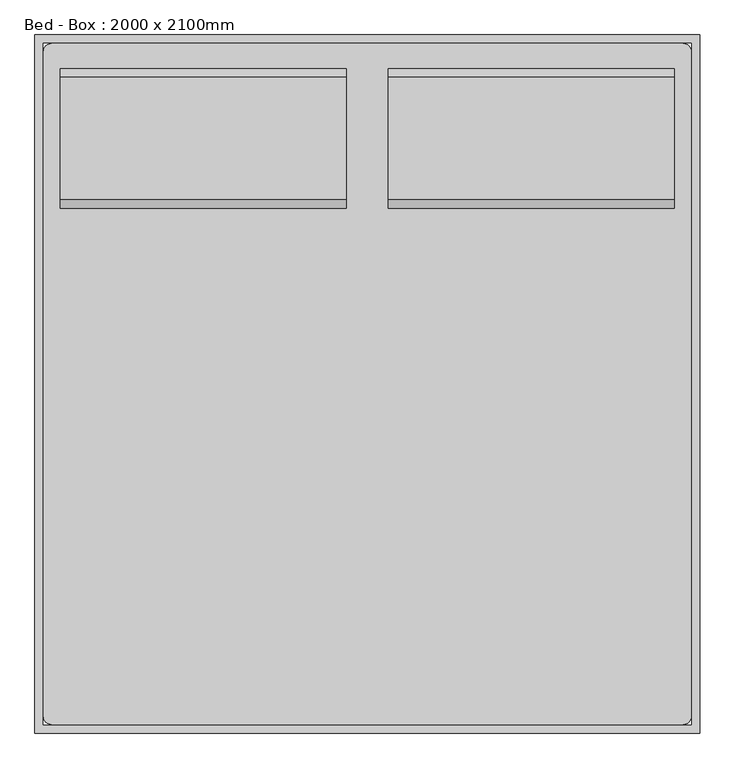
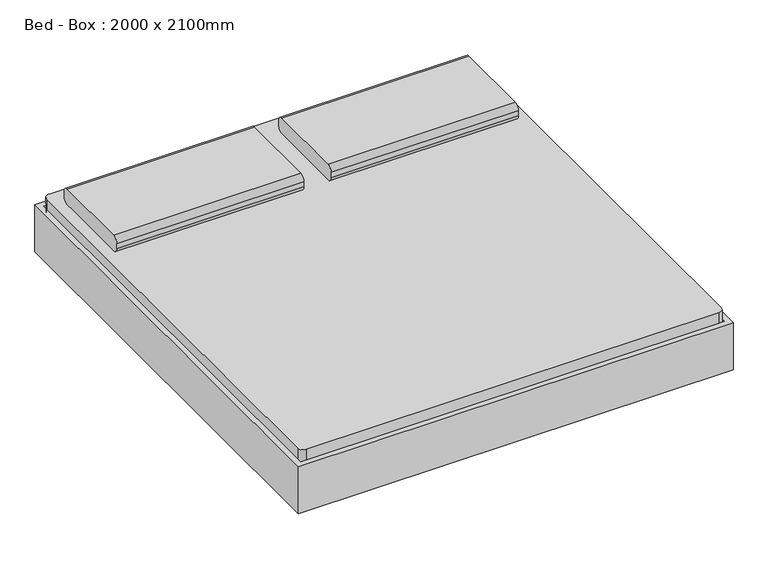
"""IFC4 building model written with IfcOpenShell, lengths in millimetres: furniture geometry, Bed - Box : 2000 x 2100mm."""

from ifc_helpers import new_model, si_unit, point, frame, frame_2d, origin, place, context, project, spatial, polyline, circle_curve, trimmed, segment, composite_curve, outline, extrude, source, transform, mapped, element, save
from ifc_brep_helpers import plane_surface, cylinder_surface, revolved_surface, advanced_brep


def bed_box_2000_x_2100mm_5f007bae(model_context):
    return source(origin(), model_context, "Body", "SolidModel", [
        extrude(outline(composite_curve([segment(polyline([(688.5704918, 406.4), (320.2704918, 406.4)]), True, "CONTINUOUS"), segment(trimmed(circle_curve(frame_2d((320.2704918, 431.8)), 25.4), [point((320.2704918, 406.4))], [point((294.8704918, 431.8))], False, "CARTESIAN"), True, "CONTINUOUS"), segment(polyline([(294.8704918, 431.8), (294.8704918, 457.2)]), True, "CONTINUOUS"), segment(trimmed(circle_curve(frame_2d((320.2704918, 457.2)), 25.4), [point((294.8704918, 457.2))], [point((320.2704918, 482.6))], False, "CARTESIAN"), True, "CONTINUOUS"), segment(polyline([(320.2704918, 482.6), (688.5704918, 482.6)]), True, "CONTINUOUS"), segment(trimmed(circle_curve(frame_2d((688.5704918, 457.2)), 25.4), [point((688.5704918, 482.6))], [point((713.9704918, 457.2))], False, "CARTESIAN"), True, "CONTINUOUS"), segment(polyline([(713.9704918, 457.2), (713.9704918, 431.8)]), True, "CONTINUOUS"), segment(trimmed(circle_curve(frame_2d((688.5704918, 431.8)), 25.4), [point((713.9704918, 431.8))], [point((688.5704918, 406.4))], False, "CARTESIAN"), True, "CONTINUOUS")], self_intersect=False)), frame((402.652459, 0.0, 0.0), z_axis=(1.0, 0.0, 0.0), x_axis=(0.0, 1.0, 0.0)), (0.0, 0.0, 1.0), 860.3),
        extrude(outline(composite_curve([segment(polyline([(688.5704918, 406.4), (320.2704918, 406.4)]), True, "CONTINUOUS"), segment(trimmed(circle_curve(frame_2d((320.2704918, 431.8)), 25.4), [point((320.2704918, 406.4))], [point((294.8704918, 431.8))], False, "CARTESIAN"), True, "CONTINUOUS"), segment(polyline([(294.8704918, 431.8), (294.8704918, 457.2)]), True, "CONTINUOUS"), segment(trimmed(circle_curve(frame_2d((320.2704918, 457.2)), 25.4), [point((294.8704918, 457.2))], [point((320.2704918, 482.6))], False, "CARTESIAN"), True, "CONTINUOUS"), segment(polyline([(320.2704918, 482.6), (688.5704918, 482.6)]), True, "CONTINUOUS"), segment(trimmed(circle_curve(frame_2d((688.5704918, 457.2)), 25.4), [point((688.5704918, 482.6))], [point((713.9704918, 457.2))], False, "CARTESIAN"), True, "CONTINUOUS"), segment(polyline([(713.9704918, 457.2), (713.9704918, 431.8)]), True, "CONTINUOUS"), segment(trimmed(circle_curve(frame_2d((688.5704918, 431.8)), 25.4), [point((713.9704918, 431.8))], [point((688.5704918, 406.4))], False, "CARTESIAN"), True, "CONTINUOUS")], self_intersect=False)), frame((-584.647541, 0.0, 0.0), z_axis=(1.0, 0.0, 0.0), x_axis=(0.0, 1.0, 0.0)), (0.0, 0.0, 1.0), 860.3),
        advanced_brep(
        [(-635.1231784, 561.5704918, 177.8), (-635.1231784, 485.3704918, 177.8), (-635.1231784, 485.3704918, 196.85), (-635.1231784, 561.5704918, 196.85), (-584.3231784, 561.5704918, 177.8), (-584.3231784, 485.3704918, 177.8), (-572.1869899, 485.3704918, 196.85), (-572.1869899, 561.5704918, 196.85), (-508.2523099, 561.5704918, 14.6654962), (-508.2523099, 485.3704918, 14.6654962), (-490.9871466, 485.3704918, 22.716374), (-490.9871466, 561.5704918, 22.716374), (-485.2320921, 485.3704918, 0.0), (-485.2320921, 561.5704918, 0.0), (-485.2320921, 485.3704918, 19.05), (-485.2320921, 561.5704918, 19.05), (-406.6195862, 561.5704918, 0.0), (-406.6195862, 485.3704918, 0.0), (-406.6195862, 485.3704918, 19.05), (-406.6195862, 561.5704918, 19.05), (-393.9195862, 485.3704918, 3.4029547), (-393.9195862, 561.5704918, 3.4029547), (-403.4445862, 485.3704918, 19.9007387), (-403.4445862, 561.5704918, 19.9007387), (-333.822541, 561.5704918, 38.1), (-333.822541, 485.3704918, 38.1), (-338.9269731, 485.3704918, 57.15), (-338.9269731, 561.5704918, 57.15), (1012.4518216, 561.5704918, 38.1), (1012.4518216, 485.3704918, 38.1), (1017.5562537, 485.3704918, 57.15), (1017.5562537, 561.5704918, 57.15), (1072.5488669, 561.5704918, 3.4029547), (1072.5488669, 485.3704918, 3.4029547), (1082.0738669, 485.3704918, 19.9007387), (1082.0738669, 561.5704918, 19.9007387), (1085.2488669, 485.3704918, 0.0), (1085.2488669, 561.5704918, 0.0), (1085.2488669, 485.3704918, 19.05), (1085.2488669, 561.5704918, 19.05), (1163.8613728, 561.5704918, 0.0), (1163.8613728, 485.3704918, 0.0), (1163.8613728, 485.3704918, 19.05), (1163.8613728, 561.5704918, 19.05), (1186.8815906, 485.3704918, 14.6654962), (1186.8815906, 561.5704918, 14.6654962), (1169.6164272, 485.3704918, 22.716374), (1169.6164272, 561.5704918, 22.716374), (1262.952459, 561.5704918, 177.8), (1262.952459, 485.3704918, 177.8), (1250.8162705, 485.3704918, 196.85), (1250.8162705, 561.5704918, 196.85), (1313.752459, 561.5704918, 177.8), (1313.752459, 561.5704918, 196.85), (1313.752459, 485.3704918, 196.85), (1313.752459, 485.3704918, 177.8)],
        [
            (0, 1),
            (1, 2),
            (2, 3),
            (3, 0),
            (0, 4),
            (4, 5),
            (5, 1),
            (5, 6),
            (6, 2),
            (6, 7),
            (7, 3),
            (7, 4),
            (4, 8),
            (8, 9),
            (9, 5),
            (9, 10),
            (10, 6),
            (10, 11),
            (11, 7),
            (11, 8),
            (12, 9, circle_curve(frame((-485.2320921, 485.3704918, 25.4), z_axis=(0.0, 1.0, 0.0), x_axis=(-0.9063077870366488, 0.0, -0.4226182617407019)), 25.4)),
            (8, 13, circle_curve(frame((-485.2320921, 561.5704918, 25.4), z_axis=(0.0, -1.0, 0.0), x_axis=(-0.9063077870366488, 0.0, -0.4226182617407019)), 25.4)),
            (13, 12),
            (14, 10, circle_curve(frame((-485.2320921, 485.3704918, 25.4), z_axis=(0.0, 1.0, 0.0), x_axis=(-0.9063077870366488, 0.0, -0.4226182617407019)), 6.35)),
            (12, 14),
            (15, 11, circle_curve(frame((-485.2320921, 561.5704918, 25.4), z_axis=(0.0, 1.0, 0.0), x_axis=(-0.9063077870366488, 0.0, -0.4226182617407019)), 6.35)),
            (14, 15),
            (15, 13),
            (13, 16),
            (16, 17),
            (17, 12),
            (17, 18),
            (18, 14),
            (18, 19),
            (19, 15),
            (19, 16),
            (20, 17, circle_curve(frame((-406.6195862, 485.3704918, 25.4), z_axis=(0.0, 1.0, 0.0), x_axis=(0.0, 0.0, -1.0)), 25.4)),
            (16, 21, circle_curve(frame((-406.6195862, 561.5704918, 25.4), z_axis=(0.0, -1.0, 0.0), x_axis=(0.0, 0.0, -1.0)), 25.4)),
            (21, 20),
            (22, 18, circle_curve(frame((-406.6195862, 485.3704918, 25.4), z_axis=(0.0, 1.0, 0.0), x_axis=(0.0, 0.0, -1.0)), 6.35)),
            (20, 22),
            (23, 19, circle_curve(frame((-406.6195862, 561.5704918, 25.4), z_axis=(0.0, 1.0, 0.0), x_axis=(0.0, 0.0, -1.0)), 6.35)),
            (22, 23),
            (23, 21),
            (21, 24),
            (24, 25),
            (25, 20),
            (25, 26),
            (26, 22),
            (26, 27),
            (27, 23),
            (27, 24),
            (24, 28),
            (28, 29),
            (29, 25),
            (29, 30),
            (30, 26),
            (30, 31),
            (31, 27),
            (31, 28),
            (28, 32),
            (32, 33),
            (33, 29),
            (33, 34),
            (34, 30),
            (34, 35),
            (35, 31),
            (35, 32),
            (36, 33, circle_curve(frame((1085.2488669, 485.3704918, 25.4), z_axis=(0.0, 1.0, 0.0), x_axis=(-0.5000000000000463, 0.0, -0.8660254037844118)), 25.4)),
            (32, 37, circle_curve(frame((1085.2488669, 561.5704918, 25.4), z_axis=(0.0, -1.0, 0.0), x_axis=(-0.5000000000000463, 0.0, -0.8660254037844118)), 25.4)),
            (37, 36),
            (38, 34, circle_curve(frame((1085.2488669, 485.3704918, 25.4), z_axis=(0.0, 1.0, 0.0), x_axis=(-0.5000000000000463, 0.0, -0.8660254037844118)), 6.35)),
            (36, 38),
            (39, 35, circle_curve(frame((1085.2488669, 561.5704918, 25.4), z_axis=(0.0, 1.0, 0.0), x_axis=(-0.5000000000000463, 0.0, -0.8660254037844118)), 6.35)),
            (38, 39),
            (39, 37),
            (37, 40),
            (40, 41),
            (41, 36),
            (41, 42),
            (42, 38),
            (42, 43),
            (43, 39),
            (43, 40),
            (44, 41, circle_curve(frame((1163.8613728, 485.3704918, 25.4), z_axis=(0.0, 1.0, 0.0), x_axis=(0.0, 0.0, -1.0)), 25.4)),
            (40, 45, circle_curve(frame((1163.8613728, 561.5704918, 25.4), z_axis=(0.0, -1.0, 0.0), x_axis=(0.0, 0.0, -1.0)), 25.4)),
            (45, 44),
            (46, 42, circle_curve(frame((1163.8613728, 485.3704918, 25.4), z_axis=(0.0, 1.0, 0.0), x_axis=(0.0, 0.0, -1.0)), 6.35)),
            (44, 46),
            (47, 43, circle_curve(frame((1163.8613728, 561.5704918, 25.4), z_axis=(0.0, 1.0, 0.0), x_axis=(0.0, 0.0, -1.0)), 6.35)),
            (46, 47),
            (47, 45),
            (45, 48),
            (48, 49),
            (49, 44),
            (49, 50),
            (50, 46),
            (50, 51),
            (51, 47),
            (51, 48),
            (52, 53),
            (53, 54),
            (54, 55),
            (55, 52),
            (48, 52),
            (55, 49),
            (54, 50),
            (53, 51),
        ],
        [
            plane_surface(frame((-635.1231784, 815.5704918, -152.9490627), z_axis=(-1.0, 0.0, 0.0), x_axis=(0.0, 1.0, 0.0))),
            plane_surface(frame((-635.1231784, 561.5704918, 177.8), z_axis=(0.0, 0.0, -1.0), x_axis=(1.0, 0.0, 0.0))),
            plane_surface(frame((-635.1231784, 485.3704918, 177.8), z_axis=(0.0, -1.0, 0.0), x_axis=(1.0, 0.0, 0.0))),
            plane_surface(frame((-635.1231784, 485.3704918, 196.85), z_axis=(0.0, 0.0, 1.0), x_axis=(1.0, 0.0, 0.0))),
            plane_surface(frame((-635.1231784, 561.5704918, 196.85), z_axis=(0.0, 1.0, 0.0), x_axis=(1.0, 0.0, 0.0))),
            plane_surface(frame((-584.3231784, 561.5704918, 177.8), z_axis=(-0.906307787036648, 0.0, -0.4226182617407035), x_axis=(0.4226182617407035, 0.0, -0.906307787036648))),
            plane_surface(frame((-584.3231784, 485.3704918, 177.8), z_axis=(0.0, -1.0000000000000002, 0.0), x_axis=(0.4226182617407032, 0.0, -0.9063077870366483))),
            plane_surface(frame((-572.1869899, 485.3704918, 196.85), z_axis=(0.9063077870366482, 0.0, 0.4226182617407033), x_axis=(0.4226182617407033, 0.0, -0.9063077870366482))),
            plane_surface(frame((-572.1869899, 561.5704918, 196.85), z_axis=(0.0, 1.0, 0.0), x_axis=(0.422618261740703, 0.0, -0.9063077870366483))),
            cylinder_surface(frame((-485.2320921, 815.5704918, 25.4), z_axis=(0.0, -1.0, 0.0), x_axis=(-0.9063077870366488, 0.0, -0.4226182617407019)), 25.4),
            plane_surface(frame((-485.2320921, 485.3704918, 25.4), z_axis=(0.0, -1.0, 0.0), x_axis=(-0.9063077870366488, 0.0, -0.4226182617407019))),
            revolved_surface(polyline([(-490.9871465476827, 485.3704918, 22.716374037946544), (-490.9871465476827, 561.5704918, 22.716374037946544)]), (-485.2320921, 815.5704918, 25.4), (0.0, -1.0, 0.0)),
            plane_surface(frame((-485.2320921, 561.5704918, 25.4), z_axis=(0.0, 1.0, 0.0), x_axis=(-0.9063077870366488, 0.0, -0.4226182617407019))),
            plane_surface(frame((-485.2320921, 561.5704918, 0.0), z_axis=(0.0, 0.0, -1.0), x_axis=(1.0, 0.0, 0.0))),
            plane_surface(frame((-485.2320921, 485.3704918, 0.0), z_axis=(0.0, -1.0, 0.0), x_axis=(1.0, 0.0, 0.0))),
            plane_surface(frame((-485.2320921, 485.3704918, 19.05), z_axis=(0.0, 0.0, 1.0), x_axis=(1.0, 0.0, 0.0))),
            plane_surface(frame((-485.2320921, 561.5704918, 19.05), z_axis=(0.0, 1.0, 0.0), x_axis=(1.0, 0.0, 0.0))),
            cylinder_surface(frame((-406.6195862, 815.5704918, 25.4), z_axis=(0.0, -1.0, 0.0), x_axis=(0.0, 0.0, -1.0)), 25.4),
            plane_surface(frame((-406.6195862, 485.3704918, 25.4), z_axis=(0.0, -1.0, 0.0), x_axis=(0.0, 0.0, -1.0))),
            revolved_surface(polyline([(-406.6195862, 485.3704918, 19.049999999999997), (-406.6195862, 561.5704918, 19.049999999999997)]), (-406.6195862, 815.5704918, 25.4), (0.0, -1.0, 0.0)),
            plane_surface(frame((-406.6195862, 561.5704918, 25.4), z_axis=(0.0, 1.0, 0.0), x_axis=(0.0, 0.0, -1.0))),
            plane_surface(frame((-393.9195862, 561.5704918, 3.4029547), z_axis=(0.4999999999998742, 0.0, -0.8660254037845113), x_axis=(0.8660254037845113, 0.0, 0.4999999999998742))),
            plane_surface(frame((-393.9195862, 485.3704918, 3.4029547), z_axis=(0.0, -1.0, 0.0), x_axis=(0.8660254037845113, 0.0, 0.49999999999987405))),
            plane_surface(frame((-403.4445862, 485.3704918, 19.9007387), z_axis=(-0.49999999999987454, 0.0, 0.8660254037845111), x_axis=(0.8660254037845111, 0.0, 0.49999999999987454))),
            plane_surface(frame((-403.4445862, 561.5704918, 19.9007387), z_axis=(0.0, 1.0, 0.0), x_axis=(0.8660254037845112, 0.0, 0.4999999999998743))),
            plane_surface(frame((-333.822541, 561.5704918, 38.1), z_axis=(0.0, 0.0, -1.0), x_axis=(1.0, 0.0, 0.0))),
            plane_surface(frame((-333.822541, 485.3704918, 38.1), z_axis=(0.0, -1.0, 0.0), x_axis=(1.0, 0.0, 0.0))),
            plane_surface(frame((-338.9269731, 485.3704918, 57.15), z_axis=(0.0, 0.0, 1.0), x_axis=(1.0, 0.0, 0.0))),
            plane_surface(frame((-338.9269731, 561.5704918, 57.15), z_axis=(0.0, 1.0, 0.0), x_axis=(1.0, 0.0, 0.0))),
            plane_surface(frame((1012.4518216, 561.5704918, 38.1), z_axis=(-0.5000000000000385, 0.0, -0.8660254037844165), x_axis=(0.8660254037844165, 0.0, -0.5000000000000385))),
            plane_surface(frame((1012.4518216, 485.3704918, 38.1), z_axis=(0.0, -1.0, 0.0), x_axis=(0.8660254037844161, 0.0, -0.5000000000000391))),
            plane_surface(frame((1017.5562537, 485.3704918, 57.15), z_axis=(0.5000000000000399, 0.0, 0.8660254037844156), x_axis=(0.8660254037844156, 0.0, -0.5000000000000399))),
            plane_surface(frame((1017.5562537, 561.5704918, 57.15), z_axis=(0.0, 1.0, 0.0), x_axis=(0.8660254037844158, 0.0, -0.5000000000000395))),
            cylinder_surface(frame((1085.2488669, 815.5704918, 25.4), z_axis=(0.0, -1.0, 0.0), x_axis=(-0.5000000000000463, 0.0, -0.8660254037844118)), 25.4),
            plane_surface(frame((1085.2488669, 485.3704918, 25.4), z_axis=(0.0, -1.0000000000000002, 0.0), x_axis=(-0.5000000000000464, 0.0, -0.866025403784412))),
            revolved_surface(polyline([(1082.0738668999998, 485.3704918, 19.90073868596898), (1082.0738668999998, 561.5704918, 19.90073868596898)]), (1085.2488669, 815.5704918, 25.4), (0.0, -1.0, 0.0)),
            plane_surface(frame((1085.2488669, 561.5704918, 25.4), z_axis=(0.0, 1.0000000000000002, 0.0), x_axis=(-0.5000000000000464, 0.0, -0.866025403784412))),
            plane_surface(frame((1085.2488669, 561.5704918, 0.0), z_axis=(0.0, 0.0, -1.0), x_axis=(1.0, 0.0, 0.0))),
            plane_surface(frame((1085.2488669, 485.3704918, 0.0), z_axis=(0.0, -1.0, 0.0), x_axis=(1.0, 0.0, 0.0))),
            plane_surface(frame((1085.2488669, 485.3704918, 19.05), z_axis=(0.0, 0.0, 1.0), x_axis=(1.0, 0.0, 0.0))),
            plane_surface(frame((1085.2488669, 561.5704918, 19.05), z_axis=(0.0, 1.0, 0.0), x_axis=(1.0, 0.0, 0.0))),
            cylinder_surface(frame((1163.8613728, 815.5704918, 25.4), z_axis=(0.0, -1.0, 0.0), x_axis=(0.0, 0.0, -1.0)), 25.4),
            plane_surface(frame((1163.8613728, 485.3704918, 25.4), z_axis=(0.0, -1.0, 0.0), x_axis=(0.0, 0.0, -1.0))),
            revolved_surface(polyline([(1163.8613728, 485.3704918, 19.049999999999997), (1163.8613728, 561.5704918, 19.049999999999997)]), (1163.8613728, 815.5704918, 25.4), (0.0, -1.0, 0.0)),
            plane_surface(frame((1163.8613728, 561.5704918, 25.4), z_axis=(0.0, 1.0, 0.0), x_axis=(0.0, 0.0, -1.0))),
            plane_surface(frame((1186.8815906, 561.5704918, 14.6654962), z_axis=(0.9063077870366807, 0.0, -0.42261826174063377), x_axis=(0.42261826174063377, 0.0, 0.9063077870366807))),
            plane_surface(frame((1186.8815906, 485.3704918, 14.6654962), z_axis=(0.0, -1.0, 0.0), x_axis=(0.4226182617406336, 0.0, 0.9063077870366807))),
            plane_surface(frame((1169.6164272, 485.3704918, 22.716374), z_axis=(-0.9063077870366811, 0.0, 0.4226182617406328), x_axis=(0.4226182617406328, 0.0, 0.9063077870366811))),
            plane_surface(frame((1169.6164272, 561.5704918, 22.716374), z_axis=(0.0, 1.0, 0.0), x_axis=(0.42261826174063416, 0.0, 0.9063077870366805))),
            plane_surface(frame((1313.752459, 815.5704918, -152.9490627), z_axis=(1.0, 0.0, 0.0), x_axis=(0.0, 1.0, 0.0))),
            plane_surface(frame((1262.952459, 561.5704918, 177.8), z_axis=(0.0, 0.0, -1.0), x_axis=(1.0, 0.0, 0.0))),
            plane_surface(frame((1262.952459, 485.3704918, 177.8), z_axis=(0.0, -1.0, 0.0), x_axis=(1.0, 0.0, 0.0))),
            plane_surface(frame((1250.8162705, 485.3704918, 196.85), z_axis=(0.0, 0.0, 1.0), x_axis=(1.0, 0.0, 0.0))),
            plane_surface(frame((1250.8162705, 561.5704918, 196.85), z_axis=(0.0, 1.0, 0.0), x_axis=(1.0, 0.0, 0.0))),
        ],
        [
            (0, [[1, 2, 3, 4]]),
            (1, [[-1, 5, 6, 7]]),
            (2, [[-2, -7, 8, 9]]),
            (3, [[-3, -9, 10, 11]]),
            (4, [[-4, -11, 12, -5]]),
            (5, [[-6, 13, 14, 15]]),
            (6, [[-8, -15, 16, 17]]),
            (7, [[-10, -17, 18, 19]]),
            (8, [[-12, -19, 20, -13]]),
            (9, [[21, -14, 22, 23]]),
            (10, [[24, -16, -21, 25]]),
            (11, [[26, -18, -24, 27]]),
            (12, [[-22, -20, -26, 28]]),
            (13, [[-23, 29, 30, 31]]),
            (14, [[-25, -31, 32, 33]]),
            (15, [[-27, -33, 34, 35]]),
            (16, [[-28, -35, 36, -29]]),
            (17, [[37, -30, 38, 39]]),
            (18, [[40, -32, -37, 41]]),
            (19, [[42, -34, -40, 43]]),
            (20, [[-38, -36, -42, 44]]),
            (21, [[-39, 45, 46, 47]]),
            (22, [[-41, -47, 48, 49]]),
            (23, [[-43, -49, 50, 51]]),
            (24, [[-44, -51, 52, -45]]),
            (25, [[-46, 53, 54, 55]]),
            (26, [[-48, -55, 56, 57]]),
            (27, [[-50, -57, 58, 59]]),
            (28, [[-52, -59, 60, -53]]),
            (29, [[-54, 61, 62, 63]]),
            (30, [[-56, -63, 64, 65]]),
            (31, [[-58, -65, 66, 67]]),
            (32, [[-60, -67, 68, -61]]),
            (33, [[69, -62, 70, 71]]),
            (34, [[72, -64, -69, 73]]),
            (35, [[74, -66, -72, 75]]),
            (36, [[-70, -68, -74, 76]]),
            (37, [[-71, 77, 78, 79]]),
            (38, [[-73, -79, 80, 81]]),
            (39, [[-75, -81, 82, 83]]),
            (40, [[-76, -83, 84, -77]]),
            (41, [[85, -78, 86, 87]]),
            (42, [[88, -80, -85, 89]]),
            (43, [[90, -82, -88, 91]]),
            (44, [[-86, -84, -90, 92]]),
            (45, [[-87, 93, 94, 95]]),
            (46, [[-89, -95, 96, 97]]),
            (47, [[-91, -97, 98, 99]]),
            (48, [[-92, -99, 100, -93]]),
            (49, [[101, 102, 103, 104]]),
            (50, [[-94, 105, -104, 106]]),
            (51, [[-96, -106, -103, 107]]),
            (52, [[-98, -107, -102, 108]]),
            (53, [[-100, -108, -101, -105]]),
        ],
    ),
        extrude(outline(composite_curve([segment(polyline([(-610.047541, 790.1704918), (1288.352459, 790.1704918)]), True, "CONTINUOUS"), segment(trimmed(circle_curve(frame_2d((1288.352459, 764.7704918)), 25.4), [point((1288.352459, 790.1704918))], [point((1313.752459, 764.7704918))], False, "CARTESIAN"), True, "CONTINUOUS"), segment(polyline([(1313.752459, 764.7704918), (1313.752459, -1233.6295082)]), True, "CONTINUOUS"), segment(trimmed(circle_curve(frame_2d((1288.352459, -1233.6295082)), 25.4), [point((1313.752459, -1233.6295082))], [point((1288.352459, -1259.0295082))], False, "CARTESIAN"), True, "CONTINUOUS"), segment(polyline([(1288.352459, -1259.0295082), (-610.047541, -1259.0295082)]), True, "CONTINUOUS"), segment(trimmed(circle_curve(frame_2d((-610.047541, -1233.6295082)), 25.4), [point((-610.047541, -1259.0295082))], [point((-635.447541, -1233.6295082))], False, "CARTESIAN"), True, "CONTINUOUS"), segment(polyline([(-635.447541, -1233.6295082), (-635.447541, 764.7704918)]), True, "CONTINUOUS"), segment(trimmed(circle_curve(frame_2d((-610.047541, 764.7704918)), 25.4), [point((-635.447541, 764.7704918))], [point((-610.047541, 790.1704918))], False, "CARTESIAN"), True, "CONTINUOUS")], self_intersect=False)), frame((0.0, 0.0, 203.2), z_axis=(0.0, 0.0, 1.0), x_axis=(1.0, 0.0, 0.0)), (0.0, 0.0, 1.0), 203.2),
        advanced_brep(
        [(-635.447541, -979.6295082, 196.85), (-635.447541, -979.6295082, 177.8), (-635.447541, -1055.8295082, 177.8), (-635.447541, -1055.8295082, 196.85), (-572.5113525, -979.6295082, 196.85), (-584.647541, -979.6295082, 177.8), (-584.647541, -1055.8295082, 177.8), (-572.5113525, -1055.8295082, 196.85), (-491.3115092, -979.6295082, 22.716374), (-508.5766725, -979.6295082, 14.6654962), (-508.5766725, -1055.8295082, 14.6654962), (-491.3115092, -1055.8295082, 22.716374), (-485.5564547, -979.6295082, 0.0), (-485.5564547, -979.6295082, 19.05), (-485.5564547, -1055.8295082, 0.0), (-485.5564547, -1055.8295082, 19.05), (-406.9439489, -979.6295082, 19.05), (-406.9439489, -979.6295082, 0.0), (-406.9439489, -1055.8295082, 0.0), (-406.9439489, -1055.8295082, 19.05), (-394.2439489, -979.6295082, 3.4029547), (-403.7689489, -979.6295082, 19.9007387), (-394.2439489, -1055.8295082, 3.4029547), (-403.7689489, -1055.8295082, 19.9007387), (-339.2513357, -979.6295082, 57.15), (-334.1469036, -979.6295082, 38.1), (-334.1469036, -1055.8295082, 38.1), (-339.2513357, -1055.8295082, 57.15), (1017.5562537, -979.6295082, 57.15), (1012.4518216, -979.6295082, 38.1), (1012.4518216, -1055.8295082, 38.1), (1017.5562537, -1055.8295082, 57.15), (1082.0738669, -979.6295082, 19.9007387), (1072.5488669, -979.6295082, 3.4029547), (1072.5488669, -1055.8295082, 3.4029547), (1082.0738669, -1055.8295082, 19.9007387), (1085.2488669, -979.6295082, 0.0), (1085.2488669, -979.6295082, 19.05), (1085.2488669, -1055.8295082, 0.0), (1085.2488669, -1055.8295082, 19.05), (1163.8613728, -979.6295082, 19.05), (1163.8613728, -979.6295082, 0.0), (1163.8613728, -1055.8295082, 0.0), (1163.8613728, -1055.8295082, 19.05), (1186.8815906, -979.6295082, 14.6654962), (1169.6164272, -979.6295082, 22.716374), (1186.8815906, -1055.8295082, 14.6654962), (1169.6164272, -1055.8295082, 22.716374), (1250.8162705, -979.6295082, 196.85), (1262.952459, -979.6295082, 177.8), (1262.952459, -1055.8295082, 177.8), (1250.8162705, -1055.8295082, 196.85), (1313.752459, -979.6295082, 196.85), (1313.752459, -1055.8295082, 196.85), (1313.752459, -1055.8295082, 177.8), (1313.752459, -979.6295082, 177.8)],
        [
            (0, 1),
            (1, 2),
            (2, 3),
            (3, 0),
            (0, 4),
            (4, 5),
            (5, 1),
            (5, 6),
            (6, 2),
            (6, 7),
            (7, 3),
            (7, 4),
            (4, 8),
            (8, 9),
            (9, 5),
            (9, 10),
            (10, 6),
            (10, 11),
            (11, 7),
            (11, 8),
            (12, 9, circle_curve(frame((-485.5564547, -979.6295082, 25.4), z_axis=(0.0, 1.0, 0.0), x_axis=(-0.906307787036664, 0.0, -0.4226182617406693)), 25.4)),
            (8, 13, circle_curve(frame((-485.5564547, -979.6295082, 25.4), z_axis=(0.0, -1.0, 0.0), x_axis=(-0.906307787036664, 0.0, -0.4226182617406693)), 6.35)),
            (13, 12),
            (14, 10, circle_curve(frame((-485.5564547, -1055.8295082, 25.4), z_axis=(0.0, 1.0, 0.0), x_axis=(-0.906307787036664, 0.0, -0.4226182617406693)), 25.4)),
            (12, 14),
            (15, 11, circle_curve(frame((-485.5564547, -1055.8295082, 25.4), z_axis=(0.0, 1.0, 0.0), x_axis=(-0.906307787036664, 0.0, -0.4226182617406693)), 6.35)),
            (14, 15),
            (15, 13),
            (13, 16),
            (16, 17),
            (17, 12),
            (17, 18),
            (18, 14),
            (18, 19),
            (19, 15),
            (19, 16),
            (20, 17, circle_curve(frame((-406.9439489, -979.6295082, 25.4), z_axis=(0.0, 1.0, 0.0), x_axis=(0.0, 0.0, -1.0)), 25.4)),
            (16, 21, circle_curve(frame((-406.9439489, -979.6295082, 25.4), z_axis=(0.0, -1.0, 0.0), x_axis=(0.0, 0.0, -1.0)), 6.35)),
            (21, 20),
            (22, 18, circle_curve(frame((-406.9439489, -1055.8295082, 25.4), z_axis=(0.0, 1.0, 0.0), x_axis=(0.0, 0.0, -1.0)), 25.4)),
            (20, 22),
            (23, 19, circle_curve(frame((-406.9439489, -1055.8295082, 25.4), z_axis=(0.0, 1.0, 0.0), x_axis=(0.0, 0.0, -1.0)), 6.35)),
            (22, 23),
            (23, 21),
            (21, 24),
            (24, 25),
            (25, 20),
            (25, 26),
            (26, 22),
            (26, 27),
            (27, 23),
            (27, 24),
            (24, 28),
            (28, 29),
            (29, 25),
            (29, 30),
            (30, 26),
            (30, 31),
            (31, 27),
            (31, 28),
            (28, 32),
            (32, 33),
            (33, 29),
            (33, 34),
            (34, 30),
            (34, 35),
            (35, 31),
            (35, 32),
            (36, 33, circle_curve(frame((1085.2488669, -979.6295082, 25.4), z_axis=(0.0, 1.0, 0.0), x_axis=(-0.5000000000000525, 0.0, -0.8660254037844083)), 25.4)),
            (32, 37, circle_curve(frame((1085.2488669, -979.6295082, 25.4), z_axis=(0.0, -1.0, 0.0), x_axis=(-0.5000000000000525, 0.0, -0.8660254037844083)), 6.35)),
            (37, 36),
            (38, 34, circle_curve(frame((1085.2488669, -1055.8295082, 25.4), z_axis=(0.0, 1.0, 0.0), x_axis=(-0.5000000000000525, 0.0, -0.8660254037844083)), 25.4)),
            (36, 38),
            (39, 35, circle_curve(frame((1085.2488669, -1055.8295082, 25.4), z_axis=(0.0, 1.0, 0.0), x_axis=(-0.5000000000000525, 0.0, -0.8660254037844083)), 6.35)),
            (38, 39),
            (39, 37),
            (37, 40),
            (40, 41),
            (41, 36),
            (41, 42),
            (42, 38),
            (42, 43),
            (43, 39),
            (43, 40),
            (44, 41, circle_curve(frame((1163.8613728, -979.6295082, 25.4), z_axis=(0.0, 1.0, 0.0), x_axis=(0.0, 0.0, -1.0)), 25.4)),
            (40, 45, circle_curve(frame((1163.8613728, -979.6295082, 25.4), z_axis=(0.0, -1.0, 0.0), x_axis=(0.0, 0.0, -1.0)), 6.35)),
            (45, 44),
            (46, 42, circle_curve(frame((1163.8613728, -1055.8295082, 25.4), z_axis=(0.0, 1.0, 0.0), x_axis=(0.0, 0.0, -1.0)), 25.4)),
            (44, 46),
            (47, 43, circle_curve(frame((1163.8613728, -1055.8295082, 25.4), z_axis=(0.0, 1.0, 0.0), x_axis=(0.0, 0.0, -1.0)), 6.35)),
            (46, 47),
            (47, 45),
            (45, 48),
            (48, 49),
            (49, 44),
            (49, 50),
            (50, 46),
            (50, 51),
            (51, 47),
            (51, 48),
            (52, 53),
            (53, 54),
            (54, 55),
            (55, 52),
            (48, 52),
            (55, 49),
            (54, 50),
            (53, 51),
        ],
        [
            plane_surface(frame((-635.447541, -1284.4295082, -127.5947323), z_axis=(-1.0, 0.0, 0.0), x_axis=(0.0, 1.0, 0.0))),
            plane_surface(frame((-635.447541, -979.6295082, 196.85), z_axis=(0.0, 1.0, 0.0), x_axis=(1.0, 0.0, 0.0))),
            plane_surface(frame((-635.447541, -979.6295082, 177.8), z_axis=(0.0, 0.0, -1.0), x_axis=(1.0, 0.0, 0.0))),
            plane_surface(frame((-635.447541, -1055.8295082, 177.8), z_axis=(0.0, -1.0, 0.0), x_axis=(1.0, 0.0, 0.0))),
            plane_surface(frame((-635.447541, -1055.8295082, 196.85), z_axis=(0.0, 0.0, 1.0), x_axis=(1.0, 0.0, 0.0))),
            plane_surface(frame((-572.5113525, -979.6295082, 196.85), z_axis=(0.0, 1.0, 0.0), x_axis=(0.4226182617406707, 0.0, -0.9063077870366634))),
            plane_surface(frame((-584.647541, -979.6295082, 177.8), z_axis=(-0.9063077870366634, 0.0, -0.4226182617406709), x_axis=(0.4226182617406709, 0.0, -0.9063077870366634))),
            plane_surface(frame((-584.647541, -1055.8295082, 177.8), z_axis=(0.0, -1.0, 0.0), x_axis=(0.42261826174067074, 0.0, -0.9063077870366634))),
            plane_surface(frame((-572.5113525, -1055.8295082, 196.85), z_axis=(0.906307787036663, 0.0, 0.4226182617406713), x_axis=(0.4226182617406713, 0.0, -0.906307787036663))),
            plane_surface(frame((-485.5564547, -979.6295082, 25.4), z_axis=(0.0, 1.0, 0.0), x_axis=(-0.906307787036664, 0.0, -0.4226182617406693))),
            cylinder_surface(frame((-485.5564547, -1284.4295082, 25.4), z_axis=(0.0, -1.0, 0.0), x_axis=(-0.906307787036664, 0.0, -0.4226182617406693)), 25.4),
            plane_surface(frame((-485.5564547, -1055.8295082, 25.4), z_axis=(0.0, -1.0, 0.0), x_axis=(-0.906307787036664, 0.0, -0.4226182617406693))),
            revolved_surface(polyline([(-491.31150914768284, -1055.8295082, 22.71637403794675), (-491.31150914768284, -979.6295082, 22.71637403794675)]), (-485.5564547, -1284.4295082, 25.4), (0.0, -1.0, 0.0)),
            plane_surface(frame((-485.5564547, -979.6295082, 19.05), z_axis=(0.0, 1.0, 0.0), x_axis=(1.0, 0.0, 0.0))),
            plane_surface(frame((-485.5564547, -979.6295082, 0.0), z_axis=(0.0, 0.0, -1.0), x_axis=(1.0, 0.0, 0.0))),
            plane_surface(frame((-485.5564547, -1055.8295082, 0.0), z_axis=(0.0, -1.0, 0.0), x_axis=(1.0, 0.0, 0.0))),
            plane_surface(frame((-485.5564547, -1055.8295082, 19.05), z_axis=(0.0, 0.0, 1.0), x_axis=(1.0, 0.0, 0.0))),
            plane_surface(frame((-406.9439489, -979.6295082, 25.4), z_axis=(0.0, 1.0, 0.0), x_axis=(0.0, 0.0, -1.0))),
            cylinder_surface(frame((-406.9439489, -1284.4295082, 25.4), z_axis=(0.0, -1.0, 0.0), x_axis=(0.0, 0.0, -1.0)), 25.4),
            plane_surface(frame((-406.9439489, -1055.8295082, 25.4), z_axis=(0.0, -1.0, 0.0), x_axis=(0.0, 0.0, -1.0))),
            revolved_surface(polyline([(-406.9439489, -1055.8295082, 19.049999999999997), (-406.9439489, -979.6295082, 19.049999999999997)]), (-406.9439489, -1284.4295082, 25.4), (0.0, -1.0, 0.0)),
            plane_surface(frame((-403.7689489, -979.6295082, 19.9007387), z_axis=(0.0, 1.0, 0.0), x_axis=(0.866025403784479, 0.0, 0.4999999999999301))),
            plane_surface(frame((-394.2439489, -979.6295082, 3.4029547), z_axis=(0.4999999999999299, 0.0, -0.8660254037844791), x_axis=(0.8660254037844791, 0.0, 0.4999999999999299))),
            plane_surface(frame((-394.2439489, -1055.8295082, 3.4029547), z_axis=(0.0, -1.0, 0.0), x_axis=(0.8660254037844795, 0.0, 0.4999999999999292))),
            plane_surface(frame((-403.7689489, -1055.8295082, 19.9007387), z_axis=(-0.4999999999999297, 0.0, 0.8660254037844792), x_axis=(0.8660254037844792, 0.0, 0.4999999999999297))),
            plane_surface(frame((-339.2513357, -979.6295082, 57.15), z_axis=(0.0, 1.0, 0.0), x_axis=(1.0, 0.0, 0.0))),
            plane_surface(frame((-334.1469036, -979.6295082, 38.1), z_axis=(0.0, 0.0, -1.0), x_axis=(1.0, 0.0, 0.0))),
            plane_surface(frame((-334.1469036, -1055.8295082, 38.1), z_axis=(0.0, -1.0, 0.0), x_axis=(1.0, 0.0, 0.0))),
            plane_surface(frame((-339.2513357, -1055.8295082, 57.15), z_axis=(0.0, 0.0, 1.0), x_axis=(1.0, 0.0, 0.0))),
            plane_surface(frame((1017.5562537, -979.6295082, 57.15), z_axis=(0.0, 1.0, 0.0), x_axis=(0.8660254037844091, 0.0, -0.5000000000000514))),
            plane_surface(frame((1012.4518216, -979.6295082, 38.1), z_axis=(-0.5000000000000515, 0.0, -0.866025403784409), x_axis=(0.866025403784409, 0.0, -0.5000000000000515))),
            plane_surface(frame((1012.4518216, -1055.8295082, 38.1), z_axis=(0.0, -1.0000000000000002, 0.0), x_axis=(0.8660254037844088, 0.0, -0.5000000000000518))),
            plane_surface(frame((1017.5562537, -1055.8295082, 57.15), z_axis=(0.5000000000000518, 0.0, 0.8660254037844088), x_axis=(0.8660254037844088, 0.0, -0.5000000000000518))),
            plane_surface(frame((1085.2488669, -979.6295082, 25.4), z_axis=(0.0, 1.0000000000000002, 0.0), x_axis=(-0.5000000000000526, 0.0, -0.8660254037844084))),
            cylinder_surface(frame((1085.2488669, -1284.4295082, 25.4), z_axis=(0.0, -1.0, 0.0), x_axis=(-0.5000000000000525, 0.0, -0.8660254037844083)), 25.4),
            plane_surface(frame((1085.2488669, -1055.8295082, 25.4), z_axis=(0.0, -1.0000000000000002, 0.0), x_axis=(-0.5000000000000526, 0.0, -0.8660254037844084))),
            revolved_surface(polyline([(1082.0738668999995, -1055.8295082, 19.900738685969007), (1082.0738668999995, -979.6295082, 19.900738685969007)]), (1085.2488669, -1284.4295082, 25.4), (0.0, -1.0, 0.0)),
            plane_surface(frame((1085.2488669, -979.6295082, 19.05), z_axis=(0.0, 1.0, 0.0), x_axis=(1.0, 0.0, 0.0))),
            plane_surface(frame((1085.2488669, -979.6295082, 0.0), z_axis=(0.0, 0.0, -1.0), x_axis=(1.0, 0.0, 0.0))),
            plane_surface(frame((1085.2488669, -1055.8295082, 0.0), z_axis=(0.0, -1.0, 0.0), x_axis=(1.0, 0.0, 0.0))),
            plane_surface(frame((1085.2488669, -1055.8295082, 19.05), z_axis=(0.0, 0.0, 1.0), x_axis=(1.0, 0.0, 0.0))),
            plane_surface(frame((1163.8613728, -979.6295082, 25.4), z_axis=(0.0, 1.0, 0.0), x_axis=(0.0, 0.0, -1.0))),
            cylinder_surface(frame((1163.8613728, -1284.4295082, 25.4), z_axis=(0.0, -1.0, 0.0), x_axis=(0.0, 0.0, -1.0)), 25.4),
            plane_surface(frame((1163.8613728, -1055.8295082, 25.4), z_axis=(0.0, -1.0, 0.0), x_axis=(0.0, 0.0, -1.0))),
            revolved_surface(polyline([(1163.8613728, -1055.8295082, 19.049999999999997), (1163.8613728, -979.6295082, 19.049999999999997)]), (1163.8613728, -1284.4295082, 25.4), (0.0, -1.0, 0.0)),
            plane_surface(frame((1169.6164272, -979.6295082, 22.716374), z_axis=(0.0, 1.0, 0.0), x_axis=(0.4226182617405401, 0.0, 0.9063077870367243))),
            plane_surface(frame((1186.8815906, -979.6295082, 14.6654962), z_axis=(0.9063077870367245, 0.0, -0.4226182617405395), x_axis=(0.4226182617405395, 0.0, 0.9063077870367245))),
            plane_surface(frame((1186.8815906, -1055.8295082, 14.6654962), z_axis=(0.0, -1.0000000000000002, 0.0), x_axis=(0.42261826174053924, 0.0, 0.9063077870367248))),
            plane_surface(frame((1169.6164272, -1055.8295082, 22.716374), z_axis=(-0.9063077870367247, 0.0, 0.42261826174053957), x_axis=(0.42261826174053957, 0.0, 0.9063077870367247))),
            plane_surface(frame((1313.752459, -1284.4295082, -127.5947323), z_axis=(1.0, 0.0, 0.0), x_axis=(0.0, 1.0, 0.0))),
            plane_surface(frame((1250.8162705, -979.6295082, 196.85), z_axis=(0.0, 1.0, 0.0), x_axis=(1.0, 0.0, 0.0))),
            plane_surface(frame((1262.952459, -979.6295082, 177.8), z_axis=(0.0, 0.0, -1.0), x_axis=(1.0, 0.0, 0.0))),
            plane_surface(frame((1262.952459, -1055.8295082, 177.8), z_axis=(0.0, -1.0, 0.0), x_axis=(1.0, 0.0, 0.0))),
            plane_surface(frame((1250.8162705, -1055.8295082, 196.85), z_axis=(0.0, 0.0, 1.0), x_axis=(1.0, 0.0, 0.0))),
        ],
        [
            (0, [[1, 2, 3, 4]]),
            (1, [[-1, 5, 6, 7]]),
            (2, [[-2, -7, 8, 9]]),
            (3, [[-3, -9, 10, 11]]),
            (4, [[-4, -11, 12, -5]]),
            (5, [[-6, 13, 14, 15]]),
            (6, [[-8, -15, 16, 17]]),
            (7, [[-10, -17, 18, 19]]),
            (8, [[-12, -19, 20, -13]]),
            (9, [[21, -14, 22, 23]]),
            (10, [[24, -16, -21, 25]]),
            (11, [[26, -18, -24, 27]]),
            (12, [[-22, -20, -26, 28]]),
            (13, [[-23, 29, 30, 31]]),
            (14, [[-25, -31, 32, 33]]),
            (15, [[-27, -33, 34, 35]]),
            (16, [[-28, -35, 36, -29]]),
            (17, [[37, -30, 38, 39]]),
            (18, [[40, -32, -37, 41]]),
            (19, [[42, -34, -40, 43]]),
            (20, [[-38, -36, -42, 44]]),
            (21, [[-39, 45, 46, 47]]),
            (22, [[-41, -47, 48, 49]]),
            (23, [[-43, -49, 50, 51]]),
            (24, [[-44, -51, 52, -45]]),
            (25, [[-46, 53, 54, 55]]),
            (26, [[-48, -55, 56, 57]]),
            (27, [[-50, -57, 58, 59]]),
            (28, [[-52, -59, 60, -53]]),
            (29, [[-54, 61, 62, 63]]),
            (30, [[-56, -63, 64, 65]]),
            (31, [[-58, -65, 66, 67]]),
            (32, [[-60, -67, 68, -61]]),
            (33, [[69, -62, 70, 71]]),
            (34, [[72, -64, -69, 73]]),
            (35, [[74, -66, -72, 75]]),
            (36, [[-70, -68, -74, 76]]),
            (37, [[-71, 77, 78, 79]]),
            (38, [[-73, -79, 80, 81]]),
            (39, [[-75, -81, 82, 83]]),
            (40, [[-76, -83, 84, -77]]),
            (41, [[85, -78, 86, 87]]),
            (42, [[88, -80, -85, 89]]),
            (43, [[90, -82, -88, 91]]),
            (44, [[-86, -84, -90, 92]]),
            (45, [[-87, 93, 94, 95]]),
            (46, [[-89, -95, 96, 97]]),
            (47, [[-91, -97, 98, 99]]),
            (48, [[-92, -99, 100, -93]]),
            (49, [[101, 102, 103, 104]]),
            (50, [[-94, 105, -104, 106]]),
            (51, [[-96, -106, -103, 107]]),
            (52, [[-98, -107, -102, 108]]),
            (53, [[-100, -108, -101, -105]]),
        ],
    ),
        extrude(outline(polyline([(1339.152459, 815.5704918), (1339.152459, -1284.4295082), (-660.847541, -1284.4295082), (-660.847541, 815.5704918), (1339.152459, 815.5704918)]), holes=[polyline([(1313.752459, 790.1704918), (-635.447541, 790.1704918), (-635.447541, -1259.0295082), (1313.752459, -1259.0295082), (1313.752459, 790.1704918)])]), frame((0.0, 0.0, 127.0), z_axis=(0.0, 0.0, 1.0), x_axis=(1.0, 0.0, 0.0)), (0.0, 0.0, 1.0), 228.6),
    ])


if __name__ == "__main__":
    model = new_model("IFC4")
    model_context = context("Model", 3, world=origin())
    ifc_project = project(units=[si_unit("LENGTHUNIT", "METRE", prefix="MILLI")], contexts=[model_context])
    site = spatial("IfcSite", under=ifc_project)
    building = spatial("IfcBuilding", under=site)
    placement = place(None, origin())
    bed_box_2000_x_2100mm_shape = bed_box_2000_x_2100mm_5f007bae(model_context)
    element("IfcFurniture", 1, ObjectType="Bed - Box : 2000 x 2100mm", at=placement, inside=building, context=model_context, shape_type="MappedRepresentation", body=[
        mapped(bed_box_2000_x_2100mm_shape, transform((0.0, 0.0, 0.0), x_axis=(1.0, 0.0, 0.0), y_axis=(0.0, 1.0, 0.0), z_axis=(0.0, 0.0, 1.0))),
    ])
    save(model, "model.ifc")
